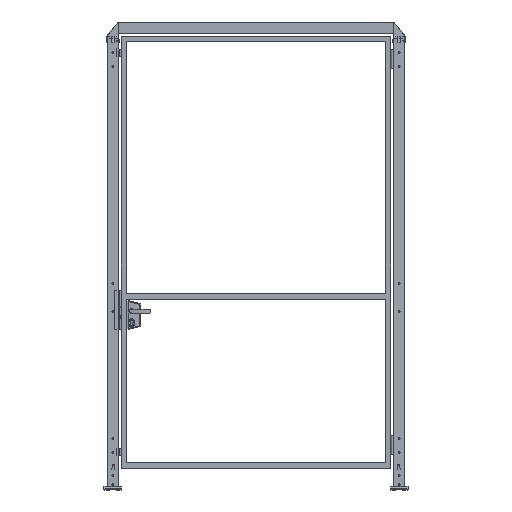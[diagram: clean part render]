
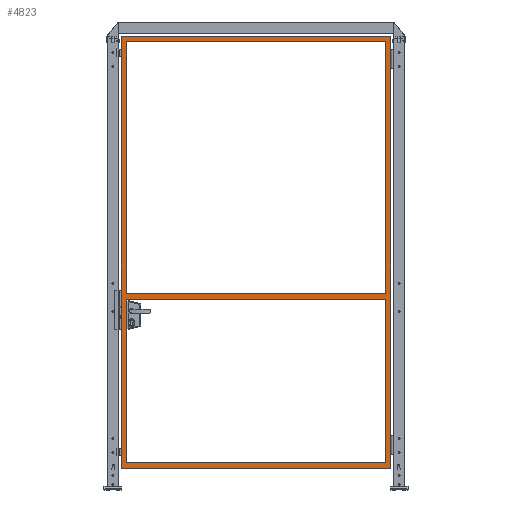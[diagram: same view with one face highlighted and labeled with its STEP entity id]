
A CAD part, top view. The second image highlights one B-rep face of the part: STEP entity #4823.
In plain terms, the highlighted planar face has unit normal (0, 0, 1).
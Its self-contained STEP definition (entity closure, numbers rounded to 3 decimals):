
#4823=ADVANCED_FACE('',(#9878,#9879,#9880),#9881,.F.);
#9878=FACE_BOUND('',#17852,.T.);
#9879=FACE_OUTER_BOUND('',#17853,.T.);
#9880=FACE_BOUND('',#17854,.T.);
#9881=PLANE('',#17855);
#17852=EDGE_LOOP('',(#32088,#32089,#32090,#32091));
#17853=EDGE_LOOP('',(#32092,#32093,#32094,#32095));
#17854=EDGE_LOOP('',(#32096,#32097,#32098,#32099));
#17855=AXIS2_PLACEMENT_3D('',#32100,#32101,#32102);
#32088=ORIENTED_EDGE('',*,*,#37969,.F.);
#32089=ORIENTED_EDGE('',*,*,#37975,.T.);
#32090=ORIENTED_EDGE('',*,*,#37997,.T.);
#32091=ORIENTED_EDGE('',*,*,#38002,.F.);
#32092=ORIENTED_EDGE('',*,*,#38013,.F.);
#32093=ORIENTED_EDGE('',*,*,#38007,.F.);
#32094=ORIENTED_EDGE('',*,*,#37977,.F.);
#32095=ORIENTED_EDGE('',*,*,#38011,.F.);
#32096=ORIENTED_EDGE('',*,*,#37999,.F.);
#32097=ORIENTED_EDGE('',*,*,#37994,.F.);
#32098=ORIENTED_EDGE('',*,*,#38005,.T.);
#32099=ORIENTED_EDGE('',*,*,#38014,.T.);
#32100=CARTESIAN_POINT('',(765.0,135.0,15.0));
#32101=DIRECTION('',(0.,0.0,-1.0));
#32102=DIRECTION('',(-1.0,0.0,0.));
#37969=EDGE_CURVE('',#46828,#46831,#46832,.T.);
#37975=EDGE_CURVE('',#46828,#46839,#46841,.T.);
#37977=EDGE_CURVE('',#46843,#46844,#46845,.T.);
#37994=EDGE_CURVE('',#46871,#46869,#46873,.T.);
#37997=EDGE_CURVE('',#46839,#46875,#46877,.T.);
#37999=EDGE_CURVE('',#46869,#46879,#46880,.T.);
#38002=EDGE_CURVE('',#46831,#46875,#46883,.T.);
#38005=EDGE_CURVE('',#46871,#46885,#46887,.T.);
#38007=EDGE_CURVE('',#46844,#46889,#46890,.T.);
#38011=EDGE_CURVE('',#46893,#46843,#46895,.T.);
#38013=EDGE_CURVE('',#46889,#46893,#46897,.T.);
#38014=EDGE_CURVE('',#46885,#46879,#46898,.T.);
#46828=VERTEX_POINT('',#60680);
#46831=VERTEX_POINT('',#60684);
#46832=LINE('',#60685,#60686);
#46839=VERTEX_POINT('',#60696);
#46841=LINE('',#60699,#60700);
#46843=VERTEX_POINT('',#60702);
#46844=VERTEX_POINT('',#60703);
#46845=LINE('',#60704,#60705);
#46869=VERTEX_POINT('',#60741);
#46871=VERTEX_POINT('',#60744);
#46873=LINE('',#60747,#60748);
#46875=VERTEX_POINT('',#60750);
#46877=LINE('',#60753,#60754);
#46879=VERTEX_POINT('',#60756);
#46880=LINE('',#60757,#60758);
#46883=LINE('',#60762,#60763);
#46885=VERTEX_POINT('',#60765);
#46887=LINE('',#60768,#60769);
#46889=VERTEX_POINT('',#60771);
#46890=LINE('',#60772,#60773);
#46893=VERTEX_POINT('',#60777);
#46895=LINE('',#60780,#60781);
#46897=LINE('',#60783,#60784);
#46898=LINE('',#60785,#60786);
#60680=CARTESIAN_POINT('',(1485.0,2490.0,15.));
#60684=CARTESIAN_POINT('',(45.,2490.0,15.0));
#60685=CARTESIAN_POINT('',(765.0,2490.0,15.0));
#60686=VECTOR('',#67067,1.0);
#60696=CARTESIAN_POINT('',(1485.0,1090.0,15.));
#60699=CARTESIAN_POINT('',(1485.0,1320.0,15.));
#60700=VECTOR('',#67072,1.0);
#60702=CARTESIAN_POINT('',(15.0,120.0,15.0));
#60703=CARTESIAN_POINT('',(15.,2520.0,15.0));
#60704=CARTESIAN_POINT('',(15.0,135.0,15.0));
#60705=VECTOR('',#67073,1.0);
#60741=CARTESIAN_POINT('',(45.,1060.0,15.0));
#60744=CARTESIAN_POINT('',(1485.0,1060.0,15.));
#60747=CARTESIAN_POINT('',(765.0,1060.0,15.0));
#60748=VECTOR('',#67088,1.0);
#60750=CARTESIAN_POINT('',(45.,1090.0,15.0));
#60753=CARTESIAN_POINT('',(765.0,1090.0,15.0));
#60754=VECTOR('',#67090,1.0);
#60756=CARTESIAN_POINT('',(45.0,150.0,15.0));
#60757=CARTESIAN_POINT('',(45.,1320.0,15.0));
#60758=VECTOR('',#67091,1.0);
#60762=CARTESIAN_POINT('',(45.,1320.0,15.0));
#60763=VECTOR('',#67093,1.0);
#60765=CARTESIAN_POINT('',(1485.0,150.0,15.));
#60768=CARTESIAN_POINT('',(1485.0,1320.0,15.));
#60769=VECTOR('',#67095,1.0);
#60771=CARTESIAN_POINT('',(1515.0,2520.0,15.));
#60772=CARTESIAN_POINT('',(30.,2520.0,15.0));
#60773=VECTOR('',#67096,1.0);
#60777=CARTESIAN_POINT('',(1515.0,120.0,15.));
#60780=CARTESIAN_POINT('',(765.0,120.0,15.0));
#60781=VECTOR('',#67099,1.0);
#60783=CARTESIAN_POINT('',(1515.0,1320.0,15.));
#60784=VECTOR('',#67100,1.0);
#60785=CARTESIAN_POINT('',(765.0,150.0,15.0));
#60786=VECTOR('',#67101,1.0);
#67067=DIRECTION('',(-1.0,0.0,0.));
#67072=DIRECTION('',(0.,-1.0,0.));
#67073=DIRECTION('',(0.0,1.0,0.0));
#67088=DIRECTION('',(-1.0,0.0,0.));
#67090=DIRECTION('',(-1.0,0.0,0.));
#67091=DIRECTION('',(0.,-1.0,0.));
#67093=DIRECTION('',(0.,-1.0,0.));
#67095=DIRECTION('',(0.,-1.0,0.));
#67096=DIRECTION('',(1.0,0.,0.));
#67099=DIRECTION('',(-1.0,0.0,0.));
#67100=DIRECTION('',(0.,-1.0,0.));
#67101=DIRECTION('',(-1.0,0.0,0.));
